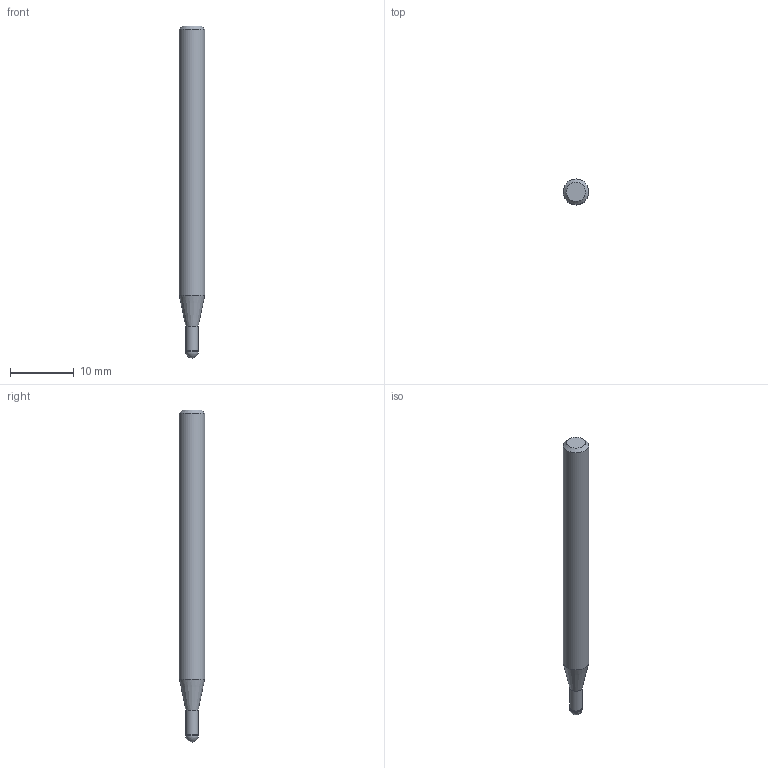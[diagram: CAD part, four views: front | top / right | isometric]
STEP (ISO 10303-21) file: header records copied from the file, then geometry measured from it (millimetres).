
FILE_DESCRIPTION((''),'2;1');
FILE_NAME('C:\Users\nsx150\AppData\Local\Temp\Mastercam 2021\LJSIDMOTM8\TEMP.step','2021-08-03T14:17:53',(''),(''),'STEP Write','Mastercam 2021 ... CNC Software, Inc.','');
FILE_SCHEMA(('AUTOMOTIVE_DESIGN'));
Length unit declared in the file: millimetre
Products named in the file (1): None
Bounding box: 4 x 4 x 52 mm (x, y, z)
Volume: 577.2 mm3; surface area: 621.3 mm2
Topology: 2 solids, 2 shells, 9 faces, 14 edges, 8 vertices
Faces by surface type: plane 3, cylinder 3, cone 2, sphere 1
Full cylindrical faces by diameter (mm): 1.94 x1, 2 x1, 4 x1
Entity records: 211 total; most frequent: DIRECTION 36, CARTESIAN_POINT 25, AXIS2_PLACEMENT_3D 18, ORIENTED_EDGE 14, EDGE_LOOP 14, STYLED_ITEM 12, ADVANCED_FACE 9, FACE_BOUND 8
